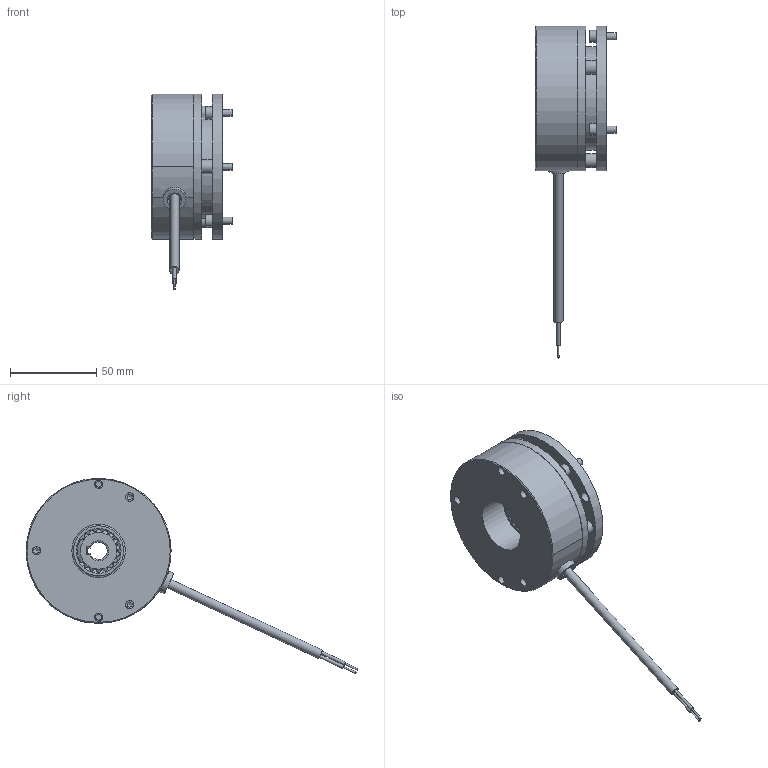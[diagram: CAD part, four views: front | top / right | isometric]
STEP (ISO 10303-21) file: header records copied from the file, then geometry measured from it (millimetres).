
FILE_DESCRIPTION(/* description */ (''),/* implementation_level */ '2;1');
FILE_NAME(/* name */ 'C:\SapWorkDir\Inventor\IP1\ConvertTempPath\5028511_IPT_000.ipt.stp',/* time_stamp */ '2020-08-27T11:11:26+02:00',/* author */ ('STRATE'),/* organization */ (''),/* preprocessor_version */ 'ST-DEVELOPER v17',/* originating_system */ 'Autodesk Inventor 2018',/* authorisation */ '');
FILE_SCHEMA (('AUTOMOTIVE_DESIGN { 1 0 10303 214 3 1 1 }'));
Length unit declared in the file: millimetre
Products named in the file (1): 5028511
Bounding box: 47.3 x 192.22 x 113.18 mm (x, y, z)
Volume: 189623.8 mm3; surface area: 54414.2 mm2
Topology: 3 solids, 3 shells, 388 faces, 1079 edges, 727 vertices
Faces by surface type: cylinder 187, plane 116, cone 64, torus 21
Full cylindrical faces by diameter (mm): 1 x2, 1.85 x2, 3 x1, 3.242 x2, 3.571 x3, 4 x6, 4.4 x3, 4.5 x3, 4.6 x3, 4.8 x5, 5.3 x1, 6 x2, 6.3 x2, 6.6 x1, 7 x3, 8 x3, 8.4 x3, 8.8 x6, 13.2 x1, 29 x1, 31 x3, 39.5 x2, 40 x2, 60 x1, 84 x2
Entity records: 14088 total; most frequent: CARTESIAN_POINT 3617, ORIENTED_EDGE 2148, DIRECTION 2056, EDGE_CURVE 1074, AXIS2_PLACEMENT_3D 850, VERTEX_POINT 729, EDGE_LOOP 473, CIRCLE 437
